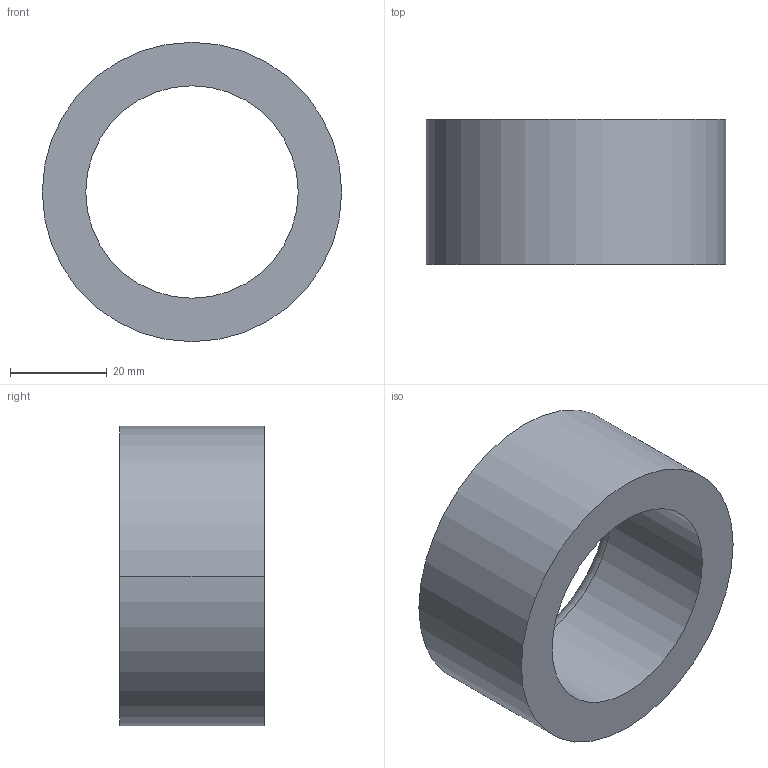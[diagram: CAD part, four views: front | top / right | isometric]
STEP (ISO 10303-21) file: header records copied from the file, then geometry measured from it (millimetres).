
FILE_DESCRIPTION (( 'STEP AP203' ), '1' );
FILE_NAME ('30800.WPP62L44.0.step', '2019-01-23T22:56:59', ( '' ), ( '' ), 'SwSTEP 2.0', 'SolidWorks 2017', '' );
FILE_SCHEMA (( 'CONFIG_CONTROL_DESIGN' ));
Length unit declared in the file: millimetre
Products named in the file (1): 30800.WPP62L44.0
Bounding box: 62 x 30 x 62 mm (x, y, z)
Volume: 44579.9 mm3; surface area: 12785.1 mm2
Topology: 1 solids, 1 shells, 8 faces, 16 edges, 10 vertices
Faces by surface type: cylinder 4, torus 2, plane 2
Entity records: 297 total; most frequent: DIRECTION 46, CARTESIAN_POINT 35, ORIENTED_EDGE 32, AXIS2_PLACEMENT_3D 21, EDGE_CURVE 16, CIRCLE 12, EDGE_LOOP 10, VERTEX_POINT 10
